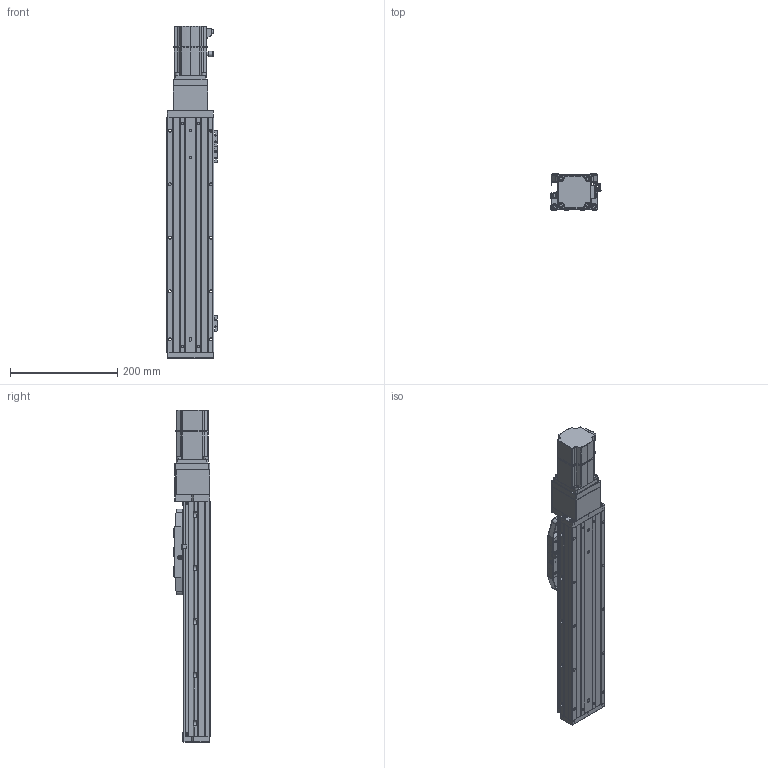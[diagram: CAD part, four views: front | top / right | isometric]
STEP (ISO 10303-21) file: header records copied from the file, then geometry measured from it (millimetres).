
FILE_DESCRIPTION (( 'STEP AP203' ), '1' );
FILE_NAME ('CTHA86-250-BC-M20-C4L.step', '2022-04-26T00:46:22', ( '微软用户' ), ( '微软中国' ), 'SwSTEP 2.0', 'SolidWorks 2020', '' );
FILE_SCHEMA (( 'CONFIG_CONTROL_DESIGN' ));
Length unit declared in the file: millimetre
Products named in the file (22): CTHA60-017; CTHA60-016; CTHA86-031; CTHA60-021; CTHA86-013; CTHA86-030; KTHA86-001_440; GBT77-2000 M3×3; CTHA86-027; CTHA86-250-BC-M20-C4L; KTHA86-004; GBT 70.1-M3×20; CTHA86-006-1_CTHA86-006-2; KTHA86-005; GBT70.1 M5℅16; _X2_4E0983F1_X0_200W_1; GB¨uT 70.2-M3¡Á5_M3¡Á6; GBT 70.1-M3×16; GBT 70.3-M3℅6; EE_SX911P_R; GBT 70.1-M3℅6; CTHA86-002
Assembly tree (65 placements, depth 2):
  CTHA86-250-BC-M20-C4L
    KTHA86-001_440
    KTHA86-004
    KTHA86-005
    GB¨uT 70.2-M3¡Á5_M3¡Á6  x10
    EE_SX911P_R  x3
    CTHA60-017  x3
    CTHA60-021  x2
    GBT77-2000 M3×3  x6
    GBT 70.1-M3×20
    GBT70.1 M5℅16  x14
    GBT 70.1-M3×16
    GBT 70.1-M3℅6  x6
    CTHA60-016  x2
    CTHA86-013
    CTHA86-027
    CTHA86-006-1_CTHA86-006-2
    _X2_4E0983F1_X0_200W_1
    GBT 70.3-M3℅6  x6
    CTHA86-002
    CTHA86-031
    CTHA86-030  x2
Bounding box: 93.82 x 68 x 620.5 mm (x, y, z)
Volume: 2189366.3 mm3; surface area: 409669.9 mm2
Topology: 67 solids, 67 shells, 2654 faces, 6303 edges, 3868 vertices
Faces by surface type: plane 1380, cylinder 679, cone 382, torus 120, bspline 69, sphere 24
Entity records: 45691 total; most frequent: CARTESIAN_POINT 8512, DIRECTION 7158, ORIENTED_EDGE 6862, EDGE_CURVE 3431, AXIS2_PLACEMENT_3D 2450, LINE 2258, VECTOR 2258, VERTEX_POINT 2146
